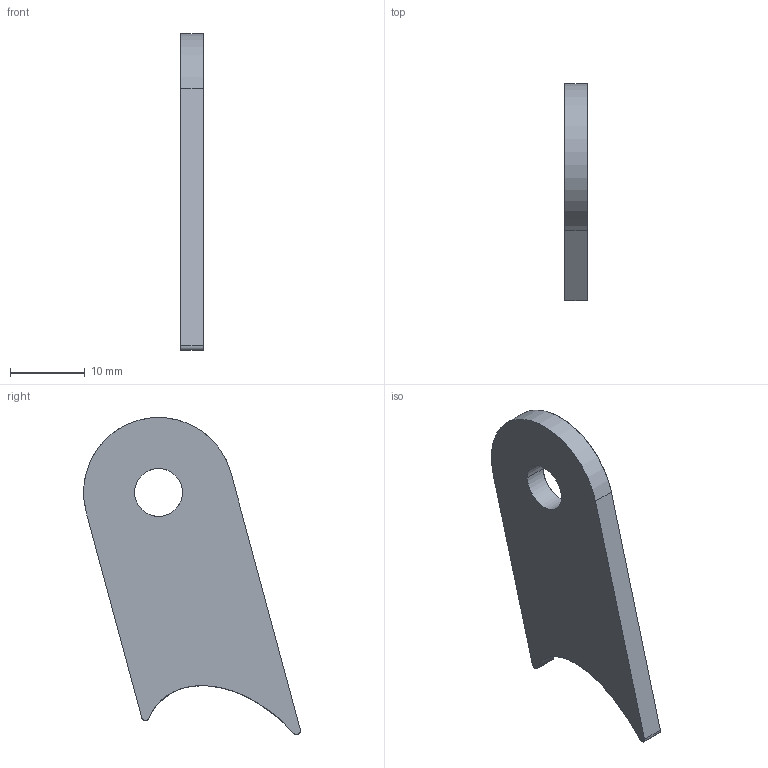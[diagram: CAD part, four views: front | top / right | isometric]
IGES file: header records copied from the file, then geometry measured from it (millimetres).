
Start section: START RECORD GO HERE.
Global section: file name: SU_08004 (Chape Rear Rocker 6mm).igs; native system: IBM CATIA IGES - CATIA Version 5 Release 19 ; preprocessor: CATIA Version 5 Release 19 ; author: Calixthe; organization: MACHINEDECALOU; date: 20200115.211043; units: millimetre
Bounding box: 3 x 28.91 x 42.27 mm (x, y, z)
Surface area: 1823.3 mm2 (no closed solid volume)
Topology: 0 solids, 0 shells, 11 faces, 55 edges, 59 vertices
Faces by surface type: revolution 5, plane 4, extrusion 2
